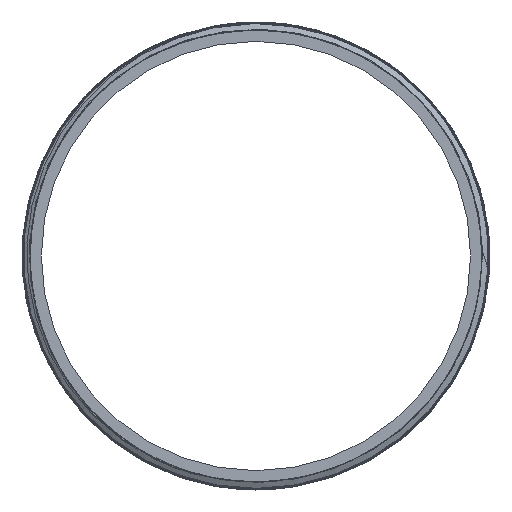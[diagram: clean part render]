
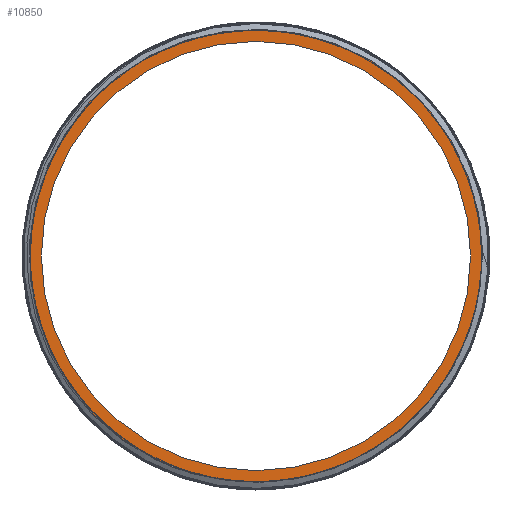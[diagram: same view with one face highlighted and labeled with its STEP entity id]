
A CAD part, left-side view. The second image highlights one B-rep face of the part: STEP entity #10850.
In plain terms, the highlighted planar face has unit normal (-1, 0, 0).
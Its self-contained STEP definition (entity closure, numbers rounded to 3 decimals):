
#251 = FACE_BOUND ( 'NONE', #8034, .T. ) ;
#755 = B_SPLINE_CURVE_WITH_KNOTS ( 'NONE', 3,
 ( #6750, #5840, #3081, #5896 ),
 .UNSPECIFIED., .F., .F.,
 ( 4, 4 ),
 ( 0., 0.004 ),
 .UNSPECIFIED. ) ;
#814 = AXIS2_PLACEMENT_3D ( 'NONE', #9816, #1403, #2203 ) ;
#827 = CARTESIAN_POINT ( 'NONE',  ( -500., -2.961, -23.162 ) ) ;
#948 = CARTESIAN_POINT ( 'NONE',  ( -500., -19.366, -13.046 ) ) ;
#972 = EDGE_LOOP ( 'NONE', ( #3644, #4293, #10834, #1146 ) ) ;
#1010 = CARTESIAN_POINT ( 'NONE',  ( -500., -18.472, -14.285 ) ) ;
#1019 = CIRCLE ( 'NONE', #5531, 22.15 ) ;
#1071 = CARTESIAN_POINT ( 'NONE',  ( -500., -13.529, -19.032 ) ) ;
#1146 = ORIENTED_EDGE ( 'NONE', *, *, #1257, .T. ) ;
#1257 = EDGE_CURVE ( 'NONE', #3200, #4203, #755, .T. ) ;
#1259 = CARTESIAN_POINT ( 'NONE',  ( -500., 6.539, -22.468 ) ) ;
#1370 = AXIS2_PLACEMENT_3D ( 'NONE', #2057, #11402, #8607 ) ;
#1403 = DIRECTION ( 'NONE',  ( -1., 0., 0. ) ) ;
#1455 = VERTEX_POINT ( 'NONE', #5292 ) ;
#1526 = EDGE_CURVE ( 'NONE', #11026, #1455, #1019, .T. ) ;
#1757 = CARTESIAN_POINT ( 'NONE',  ( -500., -12.9, -19.464 ) ) ;
#1887 = ORIENTED_EDGE ( 'NONE', *, *, #1526, .F. ) ;
#2057 = CARTESIAN_POINT ( 'NONE',  ( -500., 22.15, 0. ) ) ;
#2160 = EDGE_CURVE ( 'NONE', #4037, #3200, #11942, .T. ) ;
#2203 = DIRECTION ( 'NONE',  ( 0., 0., 1. ) ) ;
#2617 = EDGE_CURVE ( 'NONE', #7300, #4037, #7529, .T. ) ;
#2618 = EDGE_CURVE ( 'NONE', #4203, #7300, #4549, .T. ) ;
#2742 = CARTESIAN_POINT ( 'NONE',  ( -500., -21.822, -8.309 ) ) ;
#2805 = CARTESIAN_POINT ( 'NONE',  ( -500., -22.884, -4.643 ) ) ;
#3081 = CARTESIAN_POINT ( 'NONE',  ( -500., -23.399, -0.739 ) ) ;
#3200 = VERTEX_POINT ( 'NONE', #3948 ) ;
#3644 = ORIENTED_EDGE ( 'NONE', *, *, #2618, .T. ) ;
#3662 = CARTESIAN_POINT ( 'NONE',  ( -500., -11.599, -20.266 ) ) ;
#3785 = CARTESIAN_POINT ( 'NONE',  ( -500., -17.993, -14.883 ) ) ;
#3904 = CARTESIAN_POINT ( 'NONE',  ( -500., -8.855, -21.607 ) ) ;
#3948 = CARTESIAN_POINT ( 'NONE',  ( -500., -23.127, -3.135 ) ) ;
#4037 = VERTEX_POINT ( 'NONE', #8027 ) ;
#4123 = CARTESIAN_POINT ( 'NONE',  ( -500., 0., 0. ) ) ;
#4203 = VERTEX_POINT ( 'NONE', #10154 ) ;
#4293 = ORIENTED_EDGE ( 'NONE', *, *, #2617, .T. ) ;
#4549 = CIRCLE ( 'NONE', #814, 23.4 ) ;
#4582 = CARTESIAN_POINT ( 'NONE',  ( -500., -5.216, -22.761 ) ) ;
#4815 = CARTESIAN_POINT ( 'NONE',  ( -500., 3.135, -23.127 ) ) ;
#4957 = CARTESIAN_POINT ( 'NONE',  ( -500., 6.539, -22.468 ) ) ;
#5131 = ORIENTED_EDGE ( 'NONE', *, *, #9186, .F. ) ;
#5292 = CARTESIAN_POINT ( 'NONE',  ( -500., 0., 22.15 ) ) ;
#5497 = CARTESIAN_POINT ( 'NONE',  ( -500., -19.782, -12.407 ) ) ;
#5531 = AXIS2_PLACEMENT_3D ( 'NONE', #7842, #10564, #11609 ) ;
#5624 = CARTESIAN_POINT ( 'NONE',  ( -500., -16.449, -16.574 ) ) ;
#5679 = CARTESIAN_POINT ( 'NONE',  ( -500., 0.086, -23.388 ) ) ;
#5840 = CARTESIAN_POINT ( 'NONE',  ( -500., -23.309, -1.944 ) ) ;
#5896 = CARTESIAN_POINT ( 'NONE',  ( -500., -23.395, 0.462 ) ) ;
#6476 = CARTESIAN_POINT ( 'NONE',  ( -500., -20.903, -10.407 ) ) ;
#6539 = CARTESIAN_POINT ( 'NONE',  ( -500., -16.982, -16.027 ) ) ;
#6595 = CARTESIAN_POINT ( 'NONE',  ( -500., -22.319, -6.864 ) ) ;
#6750 = CARTESIAN_POINT ( 'NONE',  ( -500., -23.127, -3.135 ) ) ;
#6915 = CARTESIAN_POINT ( 'NONE',  ( -500., 4.289, -22.991 ) ) ;
#7300 = VERTEX_POINT ( 'NONE', #1259 ) ;
#7400 = CARTESIAN_POINT ( 'NONE',  ( -500., -2.2, -23.247 ) ) ;
#7529 = B_SPLINE_CURVE_WITH_KNOTS ( 'NONE', 3,
 ( #4957, #7845, #6915, #9753 ),
 .UNSPECIFIED., .F., .F.,
 ( 4, 4 ),
 ( 0.027, 0.031 ),
 .UNSPECIFIED. ) ;
#7631 = FACE_OUTER_BOUND ( 'NONE', #972, .T. ) ;
#7639 = CARTESIAN_POINT ( 'NONE',  ( -500., -10.928, -20.636 ) ) ;
#7750 = PLANE ( 'NONE',  #1370 ) ;
#7842 = CARTESIAN_POINT ( 'NONE',  ( -500., 0., 0. ) ) ;
#7845 = CARTESIAN_POINT ( 'NONE',  ( -500., 5.424, -22.771 ) ) ;
#8027 = CARTESIAN_POINT ( 'NONE',  ( -500., 3.135, -23.127 ) ) ;
#8034 = EDGE_LOOP ( 'NONE', ( #5131, #1887 ) ) ;
#8320 = CARTESIAN_POINT ( 'NONE',  ( -500., -4.47, -22.919 ) ) ;
#8363 = CARTESIAN_POINT ( 'NONE',  ( -500., 0., -22.15 ) ) ;
#8496 = CARTESIAN_POINT ( 'NONE',  ( -500., -14.744, -18.107 ) ) ;
#8557 = CARTESIAN_POINT ( 'NONE',  ( -500., 1.62, -23.332 ) ) ;
#8607 = DIRECTION ( 'NONE',  ( 0., 0., -1. ) ) ;
#9186 = EDGE_CURVE ( 'NONE', #1455, #11026, #9826, .T. ) ;
#9248 = CARTESIAN_POINT ( 'NONE',  ( -500., -20.551, -11.087 ) ) ;
#9310 = CARTESIAN_POINT ( 'NONE',  ( -500., -9.556, -21.306 ) ) ;
#9371 = CARTESIAN_POINT ( 'NONE',  ( -500., -23.024, -3.892 ) ) ;
#9428 = CARTESIAN_POINT ( 'NONE',  ( -500., -7.423, -22.139 ) ) ;
#9490 = CARTESIAN_POINT ( 'NONE',  ( -500., -6.693, -22.371 ) ) ;
#9753 = CARTESIAN_POINT ( 'NONE',  ( -500., 3.135, -23.127 ) ) ;
#9816 = CARTESIAN_POINT ( 'NONE',  ( -500., 0., 0. ) ) ;
#9826 = CIRCLE ( 'NONE', #11803, 22.15 ) ;
#9836 = DIRECTION ( 'NONE',  ( 0., 0., 1. ) ) ;
#10154 = CARTESIAN_POINT ( 'NONE',  ( -500., -23.395, 0.462 ) ) ;
#10564 = DIRECTION ( 'NONE',  ( -1., 0., 0. ) ) ;
#10827 = DIRECTION ( 'NONE',  ( -1., 0., 0. ) ) ;
#10834 = ORIENTED_EDGE ( 'NONE', *, *, #2160, .T. ) ;
#10850 = ADVANCED_FACE ( 'NONE', ( #251, #7631 ), #7750, .F. ) ;
#11026 = VERTEX_POINT ( 'NONE', #8363 ) ;
#11232 = CARTESIAN_POINT ( 'NONE',  ( -500., -23.127, -3.135 ) ) ;
#11347 = CARTESIAN_POINT ( 'NONE',  ( -500., -15.33, -17.614 ) ) ;
#11402 = DIRECTION ( 'NONE',  ( 1., 0., 0. ) ) ;
#11609 = DIRECTION ( 'NONE',  ( 0., 0., 1. ) ) ;
#11803 = AXIS2_PLACEMENT_3D ( 'NONE', #4123, #10827, #9836 ) ;
#11942 = B_SPLINE_CURVE_WITH_KNOTS ( 'NONE', 3,
 ( #4815, #8557, #5679, #7400, #827, #8320, #4582, #9490, #9428, #3904, #9310, #7639, #3662, #1757, #1071, #8496, #11347, #5624, #6539, #3785, #1010, #948, #5497, #9248, #6476, #12148, #2742, #6595, #12088, #2805, #9371, #11232 ),
 .UNSPECIFIED., .F., .F.,
 ( 4, 2, 2, 2, 2, 2, 2, 2, 2, 2, 2, 2, 2, 2, 2, 4 ),
 ( 0., 0.005, 0.007, 0.009, 0.011, 0.014, 0.016, 0.018, 0.021, 0.023, 0.025, 0.028, 0.03, 0.032, 0.034, 0.037 ),
 .UNSPECIFIED. ) ;
#12088 = CARTESIAN_POINT ( 'NONE',  ( -500., -22.532, -6.129 ) ) ;
#12148 = CARTESIAN_POINT ( 'NONE',  ( -500., -21.539, -9.018 ) ) ;
